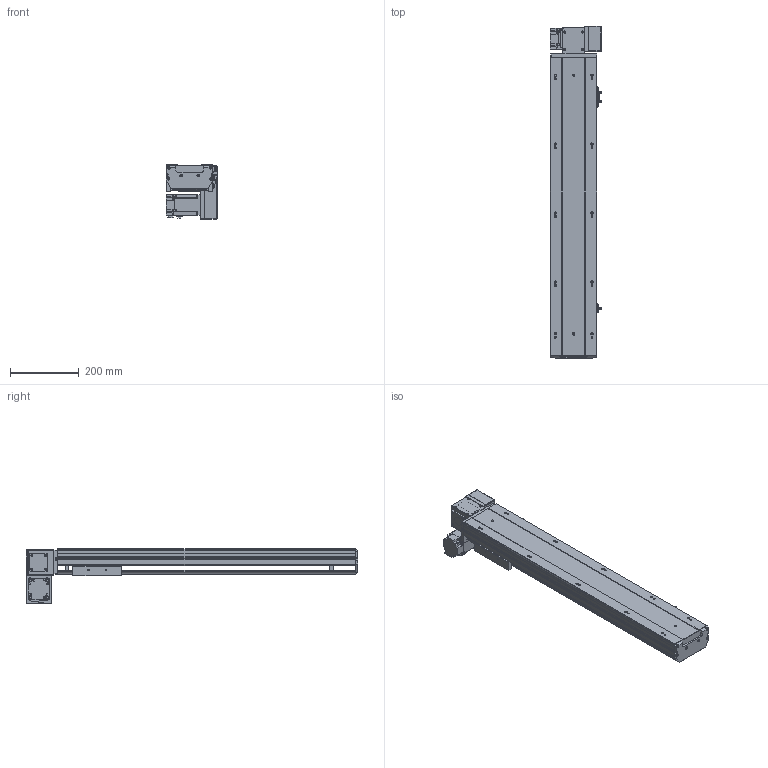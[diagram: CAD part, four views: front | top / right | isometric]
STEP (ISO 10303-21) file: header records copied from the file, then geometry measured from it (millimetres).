
FILE_DESCRIPTION (( 'STEP AP203' ), '1' );
FILE_NAME ('60.STEP', '2022-07-22T01:04:33', ( '' ), ( '' ), 'SwSTEP 2.0', 'SolidWorks 2016', '' );
FILE_SCHEMA (( 'CONFIG_CONTROL_DESIGN' ));
Length unit declared in the file: millimetre
Products named in the file (10): BTB14-L-23; BTB14-L-24; BTB14-L-M40; BTB14-L-02; 60; BTB14-L-04; BTB14-L-06; BTB14-L-菁釱_XD; BTB14-L-HZ; BTB14-L-01
Assembly tree (12 placements, depth 2):
  60
    BTB14-L-菁釱_XD
    BTB14-L-01
    BTB14-L-02
    BTB14-L-04  x3
    BTB14-L-06
    BTB14-L-23  x2
    BTB14-L-24
    BTB14-L-HZ
    BTB14-L-M40
Bounding box: 148.7 x 962.5 x 156.7 mm (x, y, z)
Volume: 4665361.9 mm3; surface area: 1007652.4 mm2
Topology: 22 solids, 22 shells, 1594 faces, 4213 edges, 2692 vertices
Faces by surface type: plane 937, cylinder 448, cone 120, bspline 77, torus 12
Entity records: 42198 total; most frequent: CARTESIAN_POINT 10483, ORIENTED_EDGE 6356, DIRECTION 6284, EDGE_CURVE 3178, LINE 2182, VECTOR 2182, VERTEX_POINT 2070, AXIS2_PLACEMENT_3D 2051
